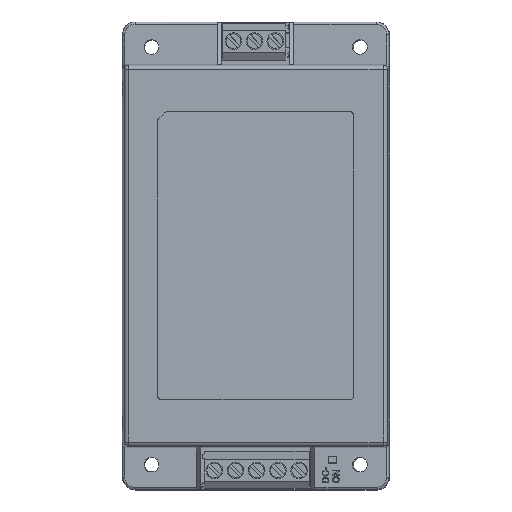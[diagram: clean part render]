
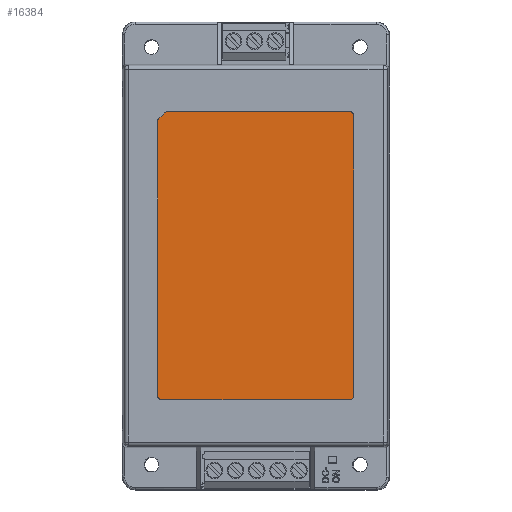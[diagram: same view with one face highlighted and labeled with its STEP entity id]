
A CAD part, top view. The second image highlights one B-rep face of the part: STEP entity #16384.
In plain terms, the highlighted planar face has unit normal (0, 0, 1).
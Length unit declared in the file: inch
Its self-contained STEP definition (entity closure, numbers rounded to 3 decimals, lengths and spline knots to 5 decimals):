
#234 = DIRECTION ( 'NONE',  ( 1., 0., 0. ) ) ;
#263 = CARTESIAN_POINT ( 'NONE',  ( 0.9252, 1.3189, 0.92909 ) ) ;
#1090 = AXIS2_PLACEMENT_3D ( 'NONE', #20473, #4912, #23037 ) ;
#1317 = CARTESIAN_POINT ( 'NONE',  ( 0.9252, 1.35827, 0.92909 ) ) ;
#2077 = CARTESIAN_POINT ( 'NONE',  ( -0.88583, -1.3189, 0.92909 ) ) ;
#2732 = EDGE_CURVE ( 'NONE', #26644, #4902, #27196, .T. ) ;
#3207 = FACE_OUTER_BOUND ( 'NONE', #24008, .T. ) ;
#3278 = EDGE_CURVE ( 'NONE', #13781, #32822, #29908, .T. ) ;
#4713 = DIRECTION ( 'NONE',  ( -1., 0., 0. ) ) ;
#4731 = ORIENTED_EDGE ( 'NONE', *, *, #5627, .T. ) ;
#4902 = VERTEX_POINT ( 'NONE', #30867 ) ;
#4909 = CARTESIAN_POINT ( 'NONE',  ( 0.88583, 1.3189, 0.92909 ) ) ;
#4912 = DIRECTION ( 'NONE',  ( 0., 0., 1. ) ) ;
#5627 = EDGE_CURVE ( 'NONE', #32675, #13781, #27305, .T. ) ;
#5889 = CIRCLE ( 'NONE', #6738, 0.03937 ) ;
#5949 = EDGE_CURVE ( 'NONE', #17670, #27963, #12288, .T. ) ;
#6000 = EDGE_CURVE ( 'NONE', #23811, #16627, #25600, .T. ) ;
#6027 = DIRECTION ( 'NONE',  ( 0., 0., 1. ) ) ;
#6623 = VECTOR ( 'NONE', #14055, 39.37008 ) ;
#6738 = AXIS2_PLACEMENT_3D ( 'NONE', #6988, #25124, #9594 ) ;
#6988 = CARTESIAN_POINT ( 'NONE',  ( -0.83015, 1.3189, 0.92909 ) ) ;
#7358 = LINE ( 'NONE', #15781, #21164 ) ;
#7522 = DIRECTION ( 'NONE',  ( -1., 0., 0. ) ) ;
#9594 = DIRECTION ( 'NONE',  ( -1., 0., 0. ) ) ;
#10037 = CARTESIAN_POINT ( 'NONE',  ( -0.85799, 1.34674, 0.92909 ) ) ;
#10733 = ORIENTED_EDGE ( 'NONE', *, *, #6000, .T. ) ;
#11433 = CARTESIAN_POINT ( 'NONE',  ( 0.9252, -1.35827, 0.92909 ) ) ;
#11479 = ORIENTED_EDGE ( 'NONE', *, *, #14131, .T. ) ;
#11693 = CARTESIAN_POINT ( 'NONE',  ( -0.88583, -1.35827, 0.92909 ) ) ;
#12288 = CIRCLE ( 'NONE', #13937, 0.03937 ) ;
#12357 = CARTESIAN_POINT ( 'NONE',  ( -0.84646, 1.35827, 0.92909 ) ) ;
#12536 = CARTESIAN_POINT ( 'NONE',  ( -0.88583, 1.26322, 0.92909 ) ) ;
#13693 = PLANE ( 'NONE',  #16490 ) ;
#13781 = VERTEX_POINT ( 'NONE', #13827 ) ;
#13827 = CARTESIAN_POINT ( 'NONE',  ( -0.9252, -1.3189, 0.92909 ) ) ;
#13937 = AXIS2_PLACEMENT_3D ( 'NONE', #4909, #23029, #7522 ) ;
#14055 = DIRECTION ( 'NONE',  ( 0., -1., 0. ) ) ;
#14097 = DIRECTION ( 'NONE',  ( 0., 1., 0. ) ) ;
#14131 = EDGE_CURVE ( 'NONE', #4902, #32675, #25670, .T. ) ;
#15166 = DIRECTION ( 'NONE',  ( -1., 0., 0. ) ) ;
#15412 = VECTOR ( 'NONE', #16905, 39.37008 ) ;
#15451 = CARTESIAN_POINT ( 'NONE',  ( 0.88583, 1.35827, 0.92909 ) ) ;
#15781 = CARTESIAN_POINT ( 'NONE',  ( -0.9252, -1.35827, 0.92909 ) ) ;
#16384 = ADVANCED_FACE ( 'NONE', ( #3207 ), #13693, .T. ) ;
#16448 = VERTEX_POINT ( 'NONE', #27002 ) ;
#16490 = AXIS2_PLACEMENT_3D ( 'NONE', #21584, #6027, #24190 ) ;
#16627 = VERTEX_POINT ( 'NONE', #30128 ) ;
#16905 = DIRECTION ( 'NONE',  ( -1., 0., 0. ) ) ;
#17670 = VERTEX_POINT ( 'NONE', #263 ) ;
#19676 = EDGE_CURVE ( 'NONE', #16627, #17670, #32166, .T. ) ;
#19748 = AXIS2_PLACEMENT_3D ( 'NONE', #2077, #20255, #4713 ) ;
#19910 = EDGE_CURVE ( 'NONE', #16448, #26644, #5889, .T. ) ;
#20255 = DIRECTION ( 'NONE',  ( 0., 0., 1. ) ) ;
#20344 = VECTOR ( 'NONE', #22730, 39.37008 ) ;
#20473 = CARTESIAN_POINT ( 'NONE',  ( 0.88583, -1.3189, 0.92909 ) ) ;
#20756 = ORIENTED_EDGE ( 'NONE', *, *, #3278, .T. ) ;
#21164 = VECTOR ( 'NONE', #234, 39.37008 ) ;
#21584 = CARTESIAN_POINT ( 'NONE',  ( 0.00484, -0.00704, 0.92909 ) ) ;
#22505 = EDGE_CURVE ( 'NONE', #27963, #16448, #25877, .T. ) ;
#22730 = DIRECTION ( 'NONE',  ( -0.707, -0.707, 0. ) ) ;
#23029 = DIRECTION ( 'NONE',  ( 0., 0., 1. ) ) ;
#23037 = DIRECTION ( 'NONE',  ( -1., 0., 0. ) ) ;
#23811 = VERTEX_POINT ( 'NONE', #30981 ) ;
#24008 = EDGE_LOOP ( 'NONE', ( #10733, #31106, #30915, #24964, #28847, #26602, #11479, #4731, #20756, #28208 ) ) ;
#24190 = DIRECTION ( 'NONE',  ( 1., 0., 0. ) ) ;
#24533 = VECTOR ( 'NONE', #14097, 39.37008 ) ;
#24964 = ORIENTED_EDGE ( 'NONE', *, *, #22505, .T. ) ;
#25124 = DIRECTION ( 'NONE',  ( 0., 0., 1. ) ) ;
#25600 = CIRCLE ( 'NONE', #1090, 0.03937 ) ;
#25670 = CIRCLE ( 'NONE', #27842, 0.03937 ) ;
#25877 = LINE ( 'NONE', #1317, #15412 ) ;
#26602 = ORIENTED_EDGE ( 'NONE', *, *, #2732, .T. ) ;
#26644 = VERTEX_POINT ( 'NONE', #10037 ) ;
#26733 = CARTESIAN_POINT ( 'NONE',  ( -0.9252, 1.26322, 0.92909 ) ) ;
#27002 = CARTESIAN_POINT ( 'NONE',  ( -0.83015, 1.35827, 0.92909 ) ) ;
#27196 = LINE ( 'NONE', #12357, #20344 ) ;
#27305 = LINE ( 'NONE', #31940, #6623 ) ;
#27842 = AXIS2_PLACEMENT_3D ( 'NONE', #12536, #30606, #15166 ) ;
#27963 = VERTEX_POINT ( 'NONE', #15451 ) ;
#28006 = EDGE_CURVE ( 'NONE', #32822, #23811, #7358, .T. ) ;
#28208 = ORIENTED_EDGE ( 'NONE', *, *, #28006, .T. ) ;
#28847 = ORIENTED_EDGE ( 'NONE', *, *, #19910, .T. ) ;
#29908 = CIRCLE ( 'NONE', #19748, 0.03937 ) ;
#30128 = CARTESIAN_POINT ( 'NONE',  ( 0.9252, -1.3189, 0.92909 ) ) ;
#30606 = DIRECTION ( 'NONE',  ( 0., 0., 1. ) ) ;
#30867 = CARTESIAN_POINT ( 'NONE',  ( -0.91367, 1.29106, 0.92909 ) ) ;
#30915 = ORIENTED_EDGE ( 'NONE', *, *, #5949, .T. ) ;
#30981 = CARTESIAN_POINT ( 'NONE',  ( 0.88583, -1.35827, 0.92909 ) ) ;
#31106 = ORIENTED_EDGE ( 'NONE', *, *, #19676, .T. ) ;
#31940 = CARTESIAN_POINT ( 'NONE',  ( -0.9252, 1.27953, 0.92909 ) ) ;
#32166 = LINE ( 'NONE', #11433, #24533 ) ;
#32675 = VERTEX_POINT ( 'NONE', #26733 ) ;
#32822 = VERTEX_POINT ( 'NONE', #11693 ) ;
